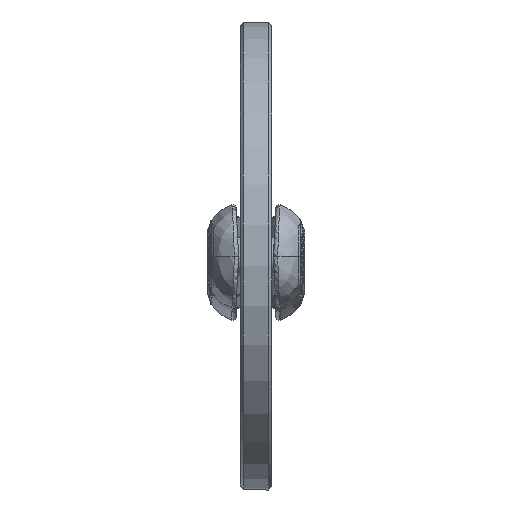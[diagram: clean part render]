
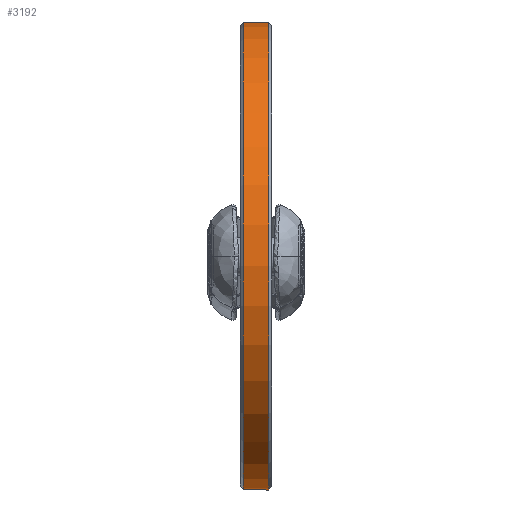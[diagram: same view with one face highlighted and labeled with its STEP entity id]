
A CAD part, top view. The second image highlights one B-rep face of the part: STEP entity #3192.
In plain terms, the highlighted cylindrical face has radius 222.5 mm (diameter 445 mm), a full revolution.
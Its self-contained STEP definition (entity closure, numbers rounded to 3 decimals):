
#779=FACE_BOUND($,#1477,.T.);
#968=CIRCLE($,#3546,222.5);
#969=CIRCLE($,#3548,222.5);
#1169=FACE_OUTER_BOUND($,#1476,.T.);
#1476=EDGE_LOOP($,(#2926));
#1477=EDGE_LOOP($,(#2927));
#1768=VERTEX_POINT($,#13745);
#1769=VERTEX_POINT($,#13748);
#2159=EDGE_CURVE($,#1768,#1768,#968,.T.);
#2160=EDGE_CURVE($,#1769,#1769,#969,.T.);
#2926=ORIENTED_EDGE($,*,*,#2160,.F.);
#2927=ORIENTED_EDGE($,*,*,#2159,.F.);
#2979=CYLINDRICAL_SURFACE($,#3547,222.5);
#3192=ADVANCED_FACE($,(#1169,#779),#2979,.T.);
#3546=AXIS2_PLACEMENT_3D($,#13746,#4311,#4312);
#3547=AXIS2_PLACEMENT_3D($,#13747,#4313,#4314);
#3548=AXIS2_PLACEMENT_3D($,#13749,#4315,#4316);
#4311=DIRECTION('center_axis',(0.,0.,-1.));
#4312=DIRECTION('ref_axis',(-1.,0.,0.));
#4313=DIRECTION('center_axis',(0.,0.,1.));
#4314=DIRECTION('ref_axis',(-1.,0.,0.));
#4315=DIRECTION('center_axis',(0.,0.,1.));
#4316=DIRECTION('ref_axis',(-1.,0.,0.));
#13745=CARTESIAN_POINT('',(222.5,0.,-12.));
#13746=CARTESIAN_POINT('Origin',(0.,0.,-12.));
#13747=CARTESIAN_POINT('Origin',(0.,0.,0.));
#13748=CARTESIAN_POINT('',(222.5,0.,12.));
#13749=CARTESIAN_POINT('Origin',(0.,0.,12.));
